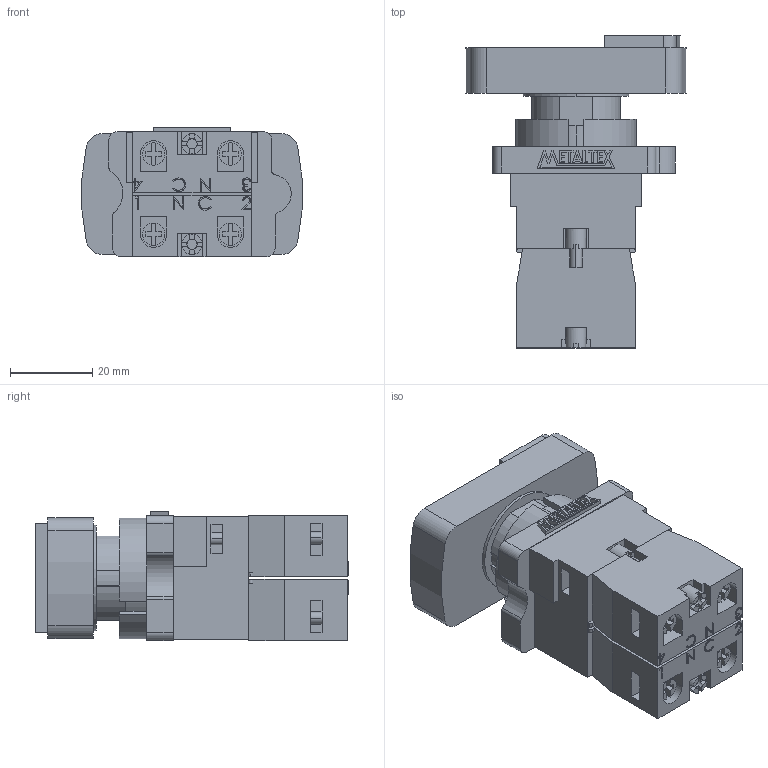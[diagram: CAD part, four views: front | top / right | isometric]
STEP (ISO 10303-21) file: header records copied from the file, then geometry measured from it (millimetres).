
FILE_DESCRIPTION (( 'STEP AP203' ), '1' );
FILE_NAME ('P20IDL-Y-1C.STEP', '2019-01-25T16:54:46', ( '' ), ( '' ), 'SwSTEP 2.0', 'SolidWorks 2012', '' );
FILE_SCHEMA (( 'CONFIG_CONTROL_DESIGN' ));
Length unit declared in the file: millimetre
Products named in the file (6): P20IDL-Y-1C; METALTEX 18,98; M20-1B; M20-IL; M20-1A; P20IDL
Assembly tree (5 placements, depth 2):
  P20IDL-Y-1C
    P20IDL
    M20-1A
    M20-IL
    M20-1B
    METALTEX 18,98
Bounding box: 53.73 x 76.25 x 31.5 mm (x, y, z)
Volume: 67007.6 mm3; surface area: 26083.4 mm2
Topology: 11 solids, 11 shells, 720 faces, 1884 edges, 1248 vertices
Faces by surface type: plane 507, cylinder 151, bspline 46, torus 16
Entity records: 25498 total; most frequent: CARTESIAN_POINT 6978, ORIENTED_EDGE 3768, DIRECTION 3586, EDGE_CURVE 1884, VECTOR 1362, LINE 1362, VERTEX_POINT 1248, AXIS2_PLACEMENT_3D 1112
